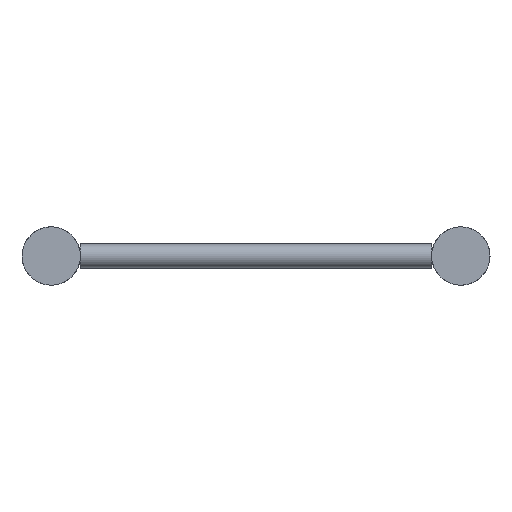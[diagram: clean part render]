
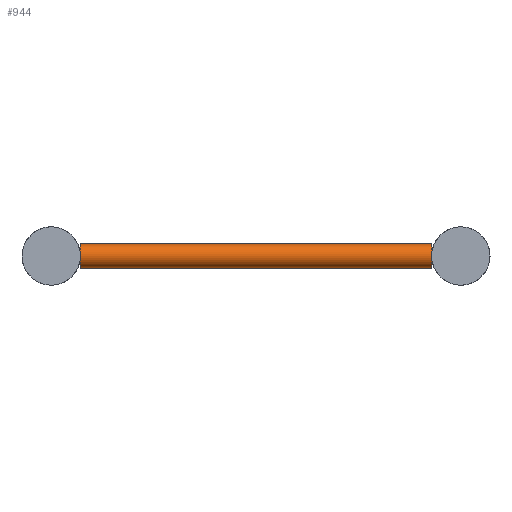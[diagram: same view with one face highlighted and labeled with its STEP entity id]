
A CAD part, left-side view. The second image highlights one B-rep face of the part: STEP entity #944.
In plain terms, the highlighted cylindrical face has radius 10 mm (diameter 20 mm), a full revolution.
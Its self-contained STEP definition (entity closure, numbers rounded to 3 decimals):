
#53=CIRCLE('',#1066,10.);
#54=CIRCLE('',#1068,10.);
#55=CIRCLE('',#1070,10.);
#56=CIRCLE('',#1072,10.);
#105=FACE_BOUND('',#310,.T.);
#158=CYLINDRICAL_SURFACE('',#1071,10.);
#212=FACE_OUTER_BOUND('',#309,.T.);
#309=EDGE_LOOP('',(#644,#645));
#310=EDGE_LOOP('',(#646,#647));
#452=VERTEX_POINT('',#1538);
#453=VERTEX_POINT('',#1539);
#454=VERTEX_POINT('',#1543);
#455=VERTEX_POINT('',#1544);
#533=EDGE_CURVE('',#453,#452,#53,.T.);
#535=EDGE_CURVE('',#455,#454,#54,.T.);
#536=EDGE_CURVE('',#452,#453,#55,.T.);
#537=EDGE_CURVE('',#454,#455,#56,.T.);
#644=ORIENTED_EDGE('',*,*,#533,.T.);
#645=ORIENTED_EDGE('',*,*,#536,.T.);
#646=ORIENTED_EDGE('',*,*,#535,.T.);
#647=ORIENTED_EDGE('',*,*,#537,.T.);
#944=ADVANCED_FACE('',(#212,#105),#158,.T.);
#1066=AXIS2_PLACEMENT_3D('',#1541,#1271,#1272);
#1068=AXIS2_PLACEMENT_3D('',#1546,#1276,#1277);
#1070=AXIS2_PLACEMENT_3D('',#1548,#1280,#1281);
#1071=AXIS2_PLACEMENT_3D('',#1549,#1282,#1283);
#1072=AXIS2_PLACEMENT_3D('',#1550,#1284,#1285);
#1271=DIRECTION('center_axis',(0.,1.,0.));
#1272=DIRECTION('ref_axis',(-1.,0.,0.));
#1276=DIRECTION('center_axis',(0.,-1.,0.));
#1277=DIRECTION('ref_axis',(-1.,0.,0.));
#1280=DIRECTION('center_axis',(0.,1.,0.));
#1281=DIRECTION('ref_axis',(-1.,0.,0.));
#1282=DIRECTION('center_axis',(0.,1.,0.));
#1283=DIRECTION('ref_axis',(-1.,0.,0.));
#1284=DIRECTION('center_axis',(0.,-1.,0.));
#1285=DIRECTION('ref_axis',(-1.,0.,0.));
#1538=CARTESIAN_POINT('',(50.,24.15,0.));
#1539=CARTESIAN_POINT('',(70.,24.15,0.));
#1541=CARTESIAN_POINT('Origin',(60.,24.15,0.));
#1543=CARTESIAN_POINT('',(50.,314.85,0.));
#1544=CARTESIAN_POINT('',(70.,314.85,0.));
#1546=CARTESIAN_POINT('Origin',(60.,314.85,0.));
#1548=CARTESIAN_POINT('Origin',(60.,24.15,0.));
#1549=CARTESIAN_POINT('Origin',(60.,169.5,0.));
#1550=CARTESIAN_POINT('Origin',(60.,314.85,0.));
